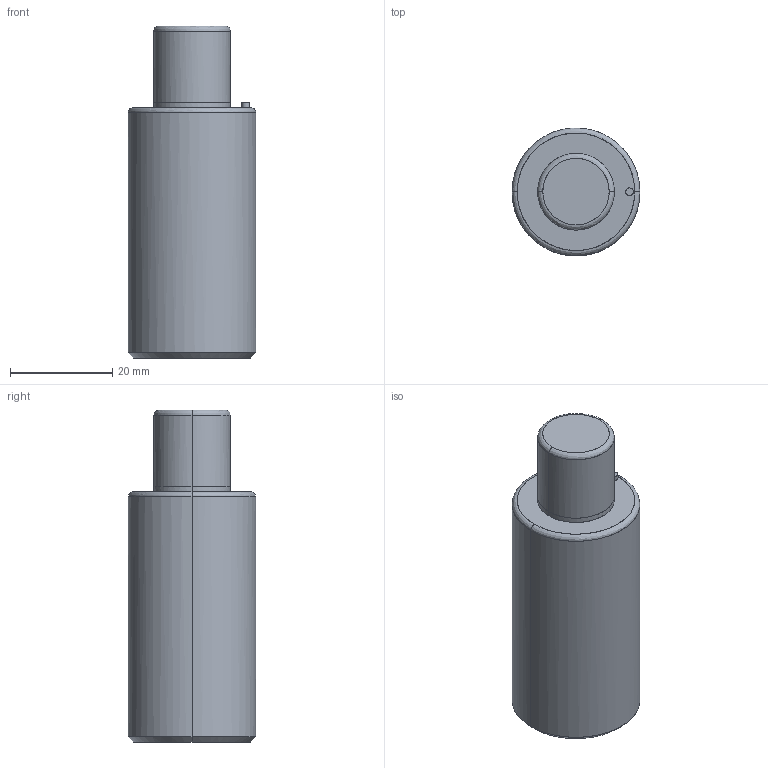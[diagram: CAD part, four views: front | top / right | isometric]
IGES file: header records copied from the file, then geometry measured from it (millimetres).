
Global section: file name: E:\UnigraphicsGraphicData\MISUMI_PRESS-PARTS\IGES\3d_mgsc25-15_04572_r00.igs; native system: NX V5.0; preprocessor: UGS NX IGES V5.0; author: MISUMI; date: 20110105.161436; units: millimetre
Bounding box: 25 x 24.98 x 65 mm (x, y, z)
Surface area: 5701 mm2 (no closed solid volume)
Topology: 0 solids, 0 shells, 24 faces, 136 edges, 134 vertices
Faces by surface type: bspline 24
